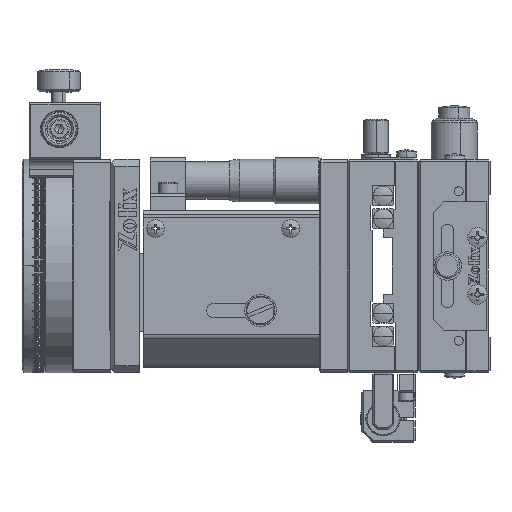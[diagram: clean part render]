
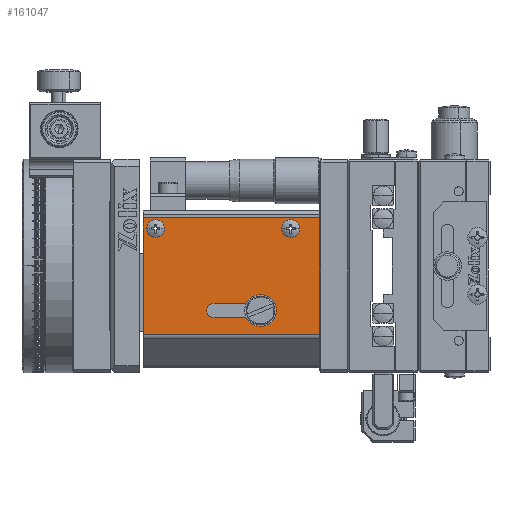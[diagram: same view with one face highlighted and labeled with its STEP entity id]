
A CAD part, left-side view. The second image highlights one B-rep face of the part: STEP entity #161047.
In plain terms, the highlighted planar face has unit normal (-1, 0, 0).
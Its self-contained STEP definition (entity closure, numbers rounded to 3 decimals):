
#1084 = EDGE_CURVE ( 'NONE', #124976, #54746, #141724, .T. ) ;
#1632 = EDGE_LOOP ( 'NONE', ( #45316, #151826, #59082, #6864, #87414 ) ) ;
#4915 = LINE ( 'NONE', #13332, #150158 ) ;
#6864 = ORIENTED_EDGE ( 'NONE', *, *, #75330, .F. ) ;
#7676 = CARTESIAN_POINT ( 'NONE',  ( -19.322, 55.744, 60.9 ) ) ;
#8160 = CARTESIAN_POINT ( 'NONE',  ( -19.322, 70.844, 58.8 ) ) ;
#8447 = AXIS2_PLACEMENT_3D ( 'NONE', #99656, #136277, #71162 ) ;
#10833 = VERTEX_POINT ( 'NONE', #147087 ) ;
#11554 = DIRECTION ( 'NONE',  ( -1., 0., 0. ) ) ;
#13332 = CARTESIAN_POINT ( 'NONE',  ( -19.322, 68.744, 56.7 ) ) ;
#13350 = DIRECTION ( 'NONE',  ( -1., 0., 0. ) ) ;
#16395 = EDGE_CURVE ( 'NONE', #92079, #63963, #53889, .T. ) ;
#19155 = VECTOR ( 'NONE', #91112, 1000. ) ;
#23740 = EDGE_CURVE ( 'NONE', #10833, #51992, #38668, .T. ) ;
#23980 = CARTESIAN_POINT ( 'NONE',  ( -19.322, 88.744, 52.007 ) ) ;
#27028 = CARTESIAN_POINT ( 'NONE',  ( -19.322, 68.744, 58.8 ) ) ;
#27098 = DIRECTION ( 'NONE',  ( 0., -1., 0. ) ) ;
#34277 = DIRECTION ( 'NONE',  ( 0., -1., 0. ) ) ;
#35643 = ORIENTED_EDGE ( 'NONE', *, *, #137753, .F. ) ;
#37933 = EDGE_CURVE ( 'NONE', #135820, #104997, #65738, .T. ) ;
#38668 = CIRCLE ( 'NONE', #41276, 1.45 ) ;
#39631 = DIRECTION ( 'NONE',  ( 0., 0., 1. ) ) ;
#41276 = AXIS2_PLACEMENT_3D ( 'NONE', #158413, #13350, #129918 ) ;
#42335 = DIRECTION ( 'NONE',  ( 0., 0., -1. ) ) ;
#45130 = ORIENTED_EDGE ( 'NONE', *, *, #116847, .T. ) ;
#45316 = ORIENTED_EDGE ( 'NONE', *, *, #121508, .F. ) ;
#45712 = DIRECTION ( 'NONE',  ( 0., -1., 0. ) ) ;
#50002 = VERTEX_POINT ( 'NONE', #81699 ) ;
#51067 = EDGE_CURVE ( 'NONE', #59575, #50002, #95702, .T. ) ;
#51992 = VERTEX_POINT ( 'NONE', #123735 ) ;
#53889 = LINE ( 'NONE', #90006, #19155 ) ;
#54746 = VERTEX_POINT ( 'NONE', #106418 ) ;
#56349 = DIRECTION ( 'NONE',  ( -1., 0., 0. ) ) ;
#56518 = DIRECTION ( 'NONE',  ( 0., 1., 0. ) ) ;
#56991 = VERTEX_POINT ( 'NONE', #114957 ) ;
#57184 = CARTESIAN_POINT ( 'NONE',  ( -19.322, 39.244, 84.8 ) ) ;
#59082 = ORIENTED_EDGE ( 'NONE', *, *, #61400, .F. ) ;
#59575 = VERTEX_POINT ( 'NONE', #8160 ) ;
#60992 = DIRECTION ( 'NONE',  ( 0., 1., 0. ) ) ;
#61400 = EDGE_CURVE ( 'NONE', #56991, #59575, #68292, .T. ) ;
#63963 = VERTEX_POINT ( 'NONE', #163685 ) ;
#65572 = CARTESIAN_POINT ( 'NONE',  ( -19.322, 39.244, 52.007 ) ) ;
#65738 = LINE ( 'NONE', #82727, #131169 ) ;
#65968 = ORIENTED_EDGE ( 'NONE', *, *, #37933, .F. ) ;
#67532 = ORIENTED_EDGE ( 'NONE', *, *, #161273, .F. ) ;
#68292 = CIRCLE ( 'NONE', #115250, 2.1 ) ;
#69442 = EDGE_CURVE ( 'NONE', #81666, #134773, #85634, .T. ) ;
#71162 = DIRECTION ( 'NONE',  ( 0., -1., 0. ) ) ;
#75330 = EDGE_CURVE ( 'NONE', #134773, #56991, #144412, .T. ) ;
#81424 = CARTESIAN_POINT ( 'NONE',  ( -19.322, 47.244, 81.8 ) ) ;
#81666 = VERTEX_POINT ( 'NONE', #113257 ) ;
#81699 = CARTESIAN_POINT ( 'NONE',  ( -19.322, 68.744, 56.7 ) ) ;
#82727 = CARTESIAN_POINT ( 'NONE',  ( -19.322, 39.244, 52.007 ) ) ;
#83798 = ORIENTED_EDGE ( 'NONE', *, *, #92731, .F. ) ;
#85634 = CIRCLE ( 'NONE', #133935, 2.1 ) ;
#85740 = CIRCLE ( 'NONE', #109053, 1.45 ) ;
#87414 = ORIENTED_EDGE ( 'NONE', *, *, #69442, .F. ) ;
#90006 = CARTESIAN_POINT ( 'NONE',  ( -19.322, 39.244, 84.8 ) ) ;
#91112 = DIRECTION ( 'NONE',  ( 0., 1., 0. ) ) ;
#92079 = VERTEX_POINT ( 'NONE', #166183 ) ;
#92731 = EDGE_CURVE ( 'NONE', #54746, #124976, #85740, .T. ) ;
#95702 = CIRCLE ( 'NONE', #147020, 2.1 ) ;
#96083 = VECTOR ( 'NONE', #153851, 1000. ) ;
#99275 = CARTESIAN_POINT ( 'NONE',  ( -19.322, 68.744, 60.9 ) ) ;
#99656 = CARTESIAN_POINT ( 'NONE',  ( -19.322, 47.244, 81.8 ) ) ;
#100502 = EDGE_LOOP ( 'NONE', ( #35643, #65968, #45130, #111375 ) ) ;
#102426 = FACE_BOUND ( 'NONE', #1632, .T. ) ;
#102961 = DIRECTION ( 'NONE',  ( 0., -1., 0. ) ) ;
#104410 = FACE_BOUND ( 'NONE', #129616, .T. ) ;
#104997 = VERTEX_POINT ( 'NONE', #23980 ) ;
#106418 = CARTESIAN_POINT ( 'NONE',  ( -19.322, 45.794, 81.8 ) ) ;
#106461 = LINE ( 'NONE', #117834, #137137 ) ;
#109053 = AXIS2_PLACEMENT_3D ( 'NONE', #81424, #56349, #120905 ) ;
#109693 = VECTOR ( 'NONE', #60992, 1000. ) ;
#111375 = ORIENTED_EDGE ( 'NONE', *, *, #16395, .T. ) ;
#113052 = DIRECTION ( 'NONE',  ( -1., 0., 0. ) ) ;
#113257 = CARTESIAN_POINT ( 'NONE',  ( -19.322, 55.744, 56.7 ) ) ;
#114632 = EDGE_LOOP ( 'NONE', ( #67532, #143752 ) ) ;
#114957 = CARTESIAN_POINT ( 'NONE',  ( -19.322, 68.744, 60.9 ) ) ;
#115250 = AXIS2_PLACEMENT_3D ( 'NONE', #144454, #157633, #133602 ) ;
#116847 = EDGE_CURVE ( 'NONE', #135820, #92079, #147237, .T. ) ;
#117834 = CARTESIAN_POINT ( 'NONE',  ( -19.322, 88.744, 84.8 ) ) ;
#118633 = CARTESIAN_POINT ( 'NONE',  ( -19.322, 55.744, 58.8 ) ) ;
#120905 = DIRECTION ( 'NONE',  ( 0., -1., 0. ) ) ;
#121508 = EDGE_CURVE ( 'NONE', #50002, #81666, #4915, .T. ) ;
#122268 = DIRECTION ( 'NONE',  ( -1., 0., 0. ) ) ;
#123735 = CARTESIAN_POINT ( 'NONE',  ( -19.322, 83.794, 81.8 ) ) ;
#124976 = VERTEX_POINT ( 'NONE', #150604 ) ;
#129616 = EDGE_LOOP ( 'NONE', ( #83798, #161288 ) ) ;
#129918 = DIRECTION ( 'NONE',  ( 0., -1., 0. ) ) ;
#131169 = VECTOR ( 'NONE', #56518, 1000. ) ;
#133602 = DIRECTION ( 'NONE',  ( 0., -1., 0. ) ) ;
#133935 = AXIS2_PLACEMENT_3D ( 'NONE', #118633, #165876, #45712 ) ;
#134543 = AXIS2_PLACEMENT_3D ( 'NONE', #57184, #122268, #42335 ) ;
#134773 = VERTEX_POINT ( 'NONE', #7676 ) ;
#135820 = VERTEX_POINT ( 'NONE', #65572 ) ;
#136277 = DIRECTION ( 'NONE',  ( -1., 0., 0. ) ) ;
#136906 = CIRCLE ( 'NONE', #149820, 1.45 ) ;
#137137 = VECTOR ( 'NONE', #39631, 1000. ) ;
#137223 = FACE_OUTER_BOUND ( 'NONE', #100502, .T. ) ;
#137753 = EDGE_CURVE ( 'NONE', #104997, #63963, #106461, .T. ) ;
#138718 = CARTESIAN_POINT ( 'NONE',  ( -19.322, 85.244, 81.8 ) ) ;
#138989 = CARTESIAN_POINT ( 'NONE',  ( -19.322, 39.244, 84.8 ) ) ;
#141724 = CIRCLE ( 'NONE', #8447, 1.45 ) ;
#143752 = ORIENTED_EDGE ( 'NONE', *, *, #23740, .F. ) ;
#144412 = LINE ( 'NONE', #99275, #109693 ) ;
#144454 = CARTESIAN_POINT ( 'NONE',  ( -19.322, 68.744, 58.8 ) ) ;
#147020 = AXIS2_PLACEMENT_3D ( 'NONE', #27028, #11554, #102961 ) ;
#147087 = CARTESIAN_POINT ( 'NONE',  ( -19.322, 86.694, 81.8 ) ) ;
#147237 = LINE ( 'NONE', #138989, #96083 ) ;
#149820 = AXIS2_PLACEMENT_3D ( 'NONE', #138718, #113052, #34277 ) ;
#150158 = VECTOR ( 'NONE', #27098, 1000. ) ;
#150604 = CARTESIAN_POINT ( 'NONE',  ( -19.322, 48.694, 81.8 ) ) ;
#151826 = ORIENTED_EDGE ( 'NONE', *, *, #51067, .F. ) ;
#153851 = DIRECTION ( 'NONE',  ( 0., 0., 1. ) ) ;
#157148 = PLANE ( 'NONE',  #134543 ) ;
#157633 = DIRECTION ( 'NONE',  ( -1., 0., 0. ) ) ;
#158413 = CARTESIAN_POINT ( 'NONE',  ( -19.322, 85.244, 81.8 ) ) ;
#161047 = ADVANCED_FACE ( 'NONE', ( #163758, #104410, #137223, #102426 ), #157148, .T. ) ;
#161273 = EDGE_CURVE ( 'NONE', #51992, #10833, #136906, .T. ) ;
#161288 = ORIENTED_EDGE ( 'NONE', *, *, #1084, .F. ) ;
#163685 = CARTESIAN_POINT ( 'NONE',  ( -19.322, 88.744, 84.8 ) ) ;
#163758 = FACE_BOUND ( 'NONE', #114632, .T. ) ;
#165876 = DIRECTION ( 'NONE',  ( -1., 0., 0. ) ) ;
#166183 = CARTESIAN_POINT ( 'NONE',  ( -19.322, 39.244, 84.8 ) ) ;
